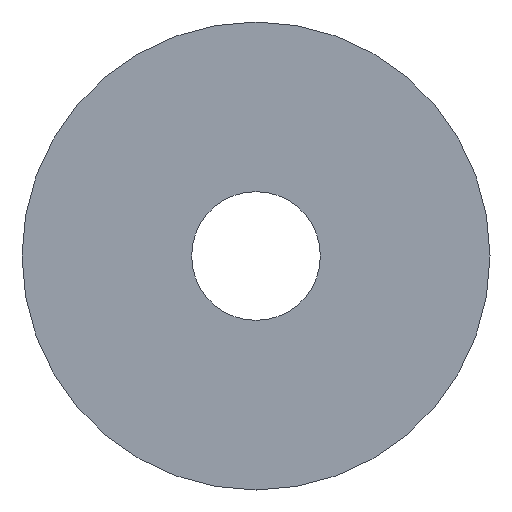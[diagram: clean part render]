
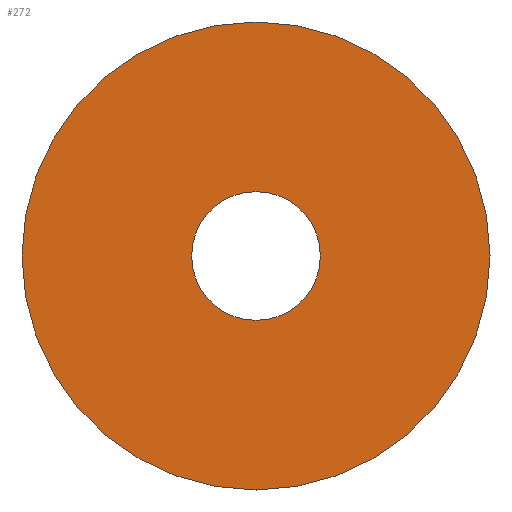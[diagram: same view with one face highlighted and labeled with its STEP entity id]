
A CAD part, front view. The second image highlights one B-rep face of the part: STEP entity #272.
In plain terms, the highlighted planar face has unit normal (0, -1, 0).
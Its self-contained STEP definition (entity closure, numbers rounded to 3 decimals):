
#8 = AXIS2_PLACEMENT_3D ( 'NONE', #189, #281, #282 ) ;
#25 = PLANE ( 'NONE',  #268 ) ;
#27 = DIRECTION ( 'NONE',  ( -1., 0., 0. ) ) ;
#31 = AXIS2_PLACEMENT_3D ( 'NONE', #234, #42, #119 ) ;
#32 = CIRCLE ( 'NONE', #145, 2. ) ;
#38 = CIRCLE ( 'NONE', #223, 0.55 ) ;
#42 = DIRECTION ( 'NONE',  ( 0., 1., 0. ) ) ;
#44 = CARTESIAN_POINT ( 'NONE',  ( 2., 0., 0. ) ) ;
#66 = CARTESIAN_POINT ( 'NONE',  ( 0.55, 0., 0. ) ) ;
#67 = FACE_OUTER_BOUND ( 'NONE', #222, .T. ) ;
#97 = DIRECTION ( 'NONE',  ( -1., 0., 0. ) ) ;
#99 = EDGE_CURVE ( 'NONE', #187, #217, #32, .T. ) ;
#112 = CARTESIAN_POINT ( 'NONE',  ( 0., 0., 0. ) ) ;
#119 = DIRECTION ( 'NONE',  ( -1., 0., 0. ) ) ;
#123 = DIRECTION ( 'NONE',  ( 0., 1., 0. ) ) ;
#125 = ORIENTED_EDGE ( 'NONE', *, *, #290, .F. ) ;
#135 = EDGE_CURVE ( 'NONE', #289, #148, #38, .T. ) ;
#145 = AXIS2_PLACEMENT_3D ( 'NONE', #112, #123, #241 ) ;
#148 = VERTEX_POINT ( 'NONE', #167 ) ;
#152 = ORIENTED_EDGE ( 'NONE', *, *, #228, .T. ) ;
#160 = CARTESIAN_POINT ( 'NONE',  ( 2., 0., 0. ) ) ;
#167 = CARTESIAN_POINT ( 'NONE',  ( -0.55, 0., 0. ) ) ;
#175 = FACE_BOUND ( 'NONE', #186, .T. ) ;
#186 = EDGE_LOOP ( 'NONE', ( #152, #278 ) ) ;
#187 = VERTEX_POINT ( 'NONE', #160 ) ;
#189 = CARTESIAN_POINT ( 'NONE',  ( 0., 0., 0. ) ) ;
#194 = DIRECTION ( 'NONE',  ( 0., 1., 0. ) ) ;
#217 = VERTEX_POINT ( 'NONE', #240 ) ;
#218 = DIRECTION ( 'NONE',  ( 0., 1., 0. ) ) ;
#222 = EDGE_LOOP ( 'NONE', ( #125, #237 ) ) ;
#223 = AXIS2_PLACEMENT_3D ( 'NONE', #224, #194, #97 ) ;
#224 = CARTESIAN_POINT ( 'NONE',  ( 0., 0., 0. ) ) ;
#228 = EDGE_CURVE ( 'NONE', #148, #289, #256, .T. ) ;
#234 = CARTESIAN_POINT ( 'NONE',  ( 0., 0., 0. ) ) ;
#237 = ORIENTED_EDGE ( 'NONE', *, *, #99, .F. ) ;
#240 = CARTESIAN_POINT ( 'NONE',  ( -2., 0., 0. ) ) ;
#241 = DIRECTION ( 'NONE',  ( -1., 0., 0. ) ) ;
#256 = CIRCLE ( 'NONE', #8, 0.55 ) ;
#268 = AXIS2_PLACEMENT_3D ( 'NONE', #44, #218, #27 ) ;
#272 = ADVANCED_FACE ( 'NONE', ( #67, #175 ), #25, .F. ) ;
#278 = ORIENTED_EDGE ( 'NONE', *, *, #135, .T. ) ;
#281 = DIRECTION ( 'NONE',  ( 0., 1., 0. ) ) ;
#282 = DIRECTION ( 'NONE',  ( -1., 0., 0. ) ) ;
#289 = VERTEX_POINT ( 'NONE', #66 ) ;
#290 = EDGE_CURVE ( 'NONE', #217, #187, #296, .T. ) ;
#296 = CIRCLE ( 'NONE', #31, 2. ) ;
